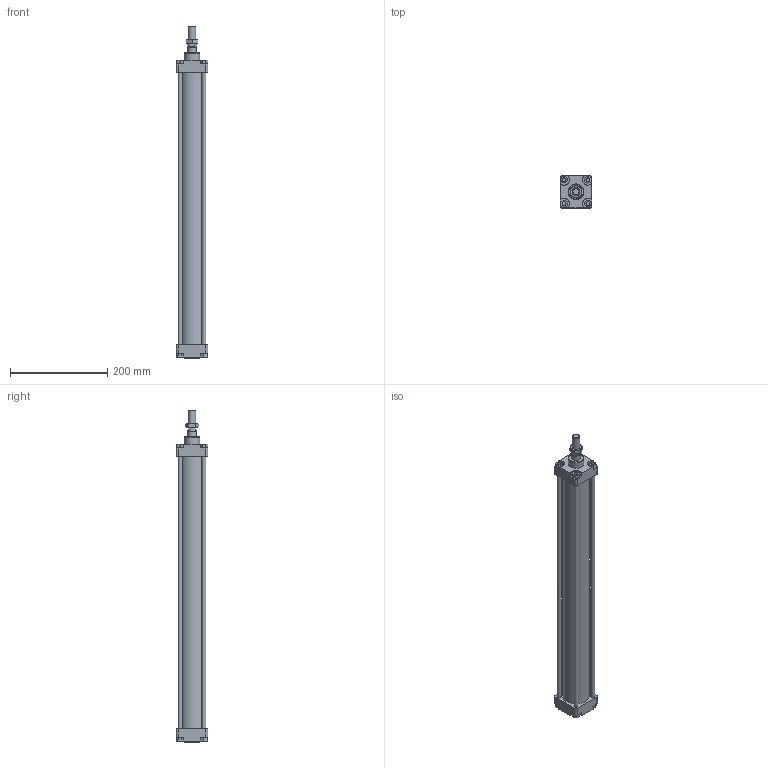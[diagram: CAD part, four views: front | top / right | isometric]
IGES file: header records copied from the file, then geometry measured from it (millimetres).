
Global section: file name: 1303_050_0500_01A; native system: Autodesk Inventor 2014; preprocessor: unknown; author: A. Manieri; date: 20161123.150258; units: millimetre
Bounding box: 65 x 65 x 682 mm (x, y, z)
Volume: 748484.4 mm3; surface area: 331923.8 mm2
Topology: 9 solids, 9 shells, 163 faces, 401 edges, 268 vertices
Faces by surface type: bspline 163
